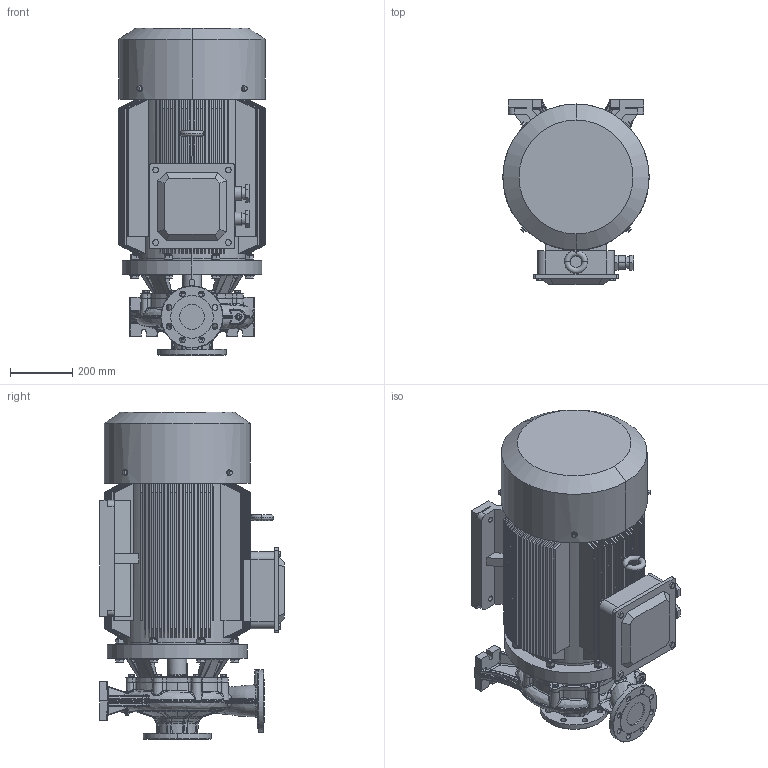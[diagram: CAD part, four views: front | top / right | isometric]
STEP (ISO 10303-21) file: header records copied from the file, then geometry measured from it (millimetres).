
FILE_DESCRIPTION (( 'STEP AP203' ), '1' );
FILE_NAME ('装配体1.STEP', '2026-04-29T00:33:32', ( '微软用户' ), ( '微软中国' ), 'SwSTEP 2.0', 'SolidWorks 2020', '' );
FILE_SCHEMA (( 'CONFIG_CONTROL_DESIGN' ));
Products named in the file (1): 蚾饜极1
Bounding box: 470 x 595 x 1054 mm (x, y, z)
Volume: 134011064.7 mm3; surface area: 6646804.3 mm2
Topology: 1 solids, 9 shells, 3400 faces, 8459 edges, 5146 vertices
Faces by surface type: plane 970, bspline 952, cylinder 649, cone 584, torus 172, sphere 73
Entity records: 149465 total; most frequent: CARTESIAN_POINT 76426, ORIENTED_EDGE 16910, DIRECTION 13252, EDGE_CURVE 8455, AXIS2_PLACEMENT_3D 5544, VERTEX_POINT 5146, EDGE_LOOP 3591, FACE_OUTER_BOUND 3400
